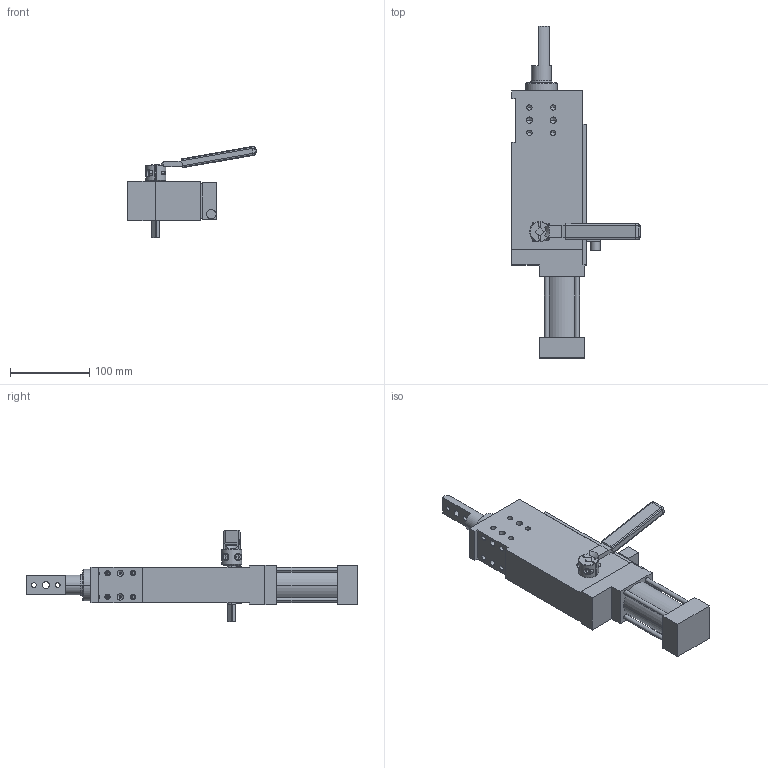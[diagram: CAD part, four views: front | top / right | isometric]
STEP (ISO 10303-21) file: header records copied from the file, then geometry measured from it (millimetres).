
FILE_DESCRIPTION((''),'2;1');
FILE_NAME('S:\Tom\INVENTOR FILES\AUTOMOTIVE\LOCATORS\XLPR 40-ML-40\SOLID MODELS\XLPR40-ML-ES1-40-S21.stp','2009-11-29T13:48:22',('carl'),(''),'Autodesk Inventor 8','Autodesk Inventor 8','');
FILE_SCHEMA(('AUTOMOTIVE_DESIGN { 1 0 10303 214 1 1 1 1 }'));
Length unit declared in the file: millimetre
Products named in the file (4): XLPR40-ML-ES1-40-S21; XLPR40-ML-ES1-40-S211; XLPR40-ML-ES1-40-S212; XLPR40-ML-ES1-40-S213
Assembly tree (3 placements, depth 2):
  XLPR40-ML-ES1-40-S21
    XLPR40-ML-ES1-40-S211
    XLPR40-ML-ES1-40-S212
    XLPR40-ML-ES1-40-S213
Bounding box: 162.64 x 419.5 x 115.01 mm (x, y, z)
Volume: 1285807.3 mm3; surface area: 135178.7 mm2
Topology: 3 solids, 3 shells, 327 faces, 846 edges, 507 vertices
Faces by surface type: bspline 120, plane 119, cylinder 65, cone 23
Entity records: 12310 total; most frequent: CARTESIAN_POINT 4776, ORIENTED_EDGE 1596, DIRECTION 1472, EDGE_CURVE 798, AXIS2_PLACEMENT_3D 520, VERTEX_POINT 507, VECTOR 432, LINE 432
